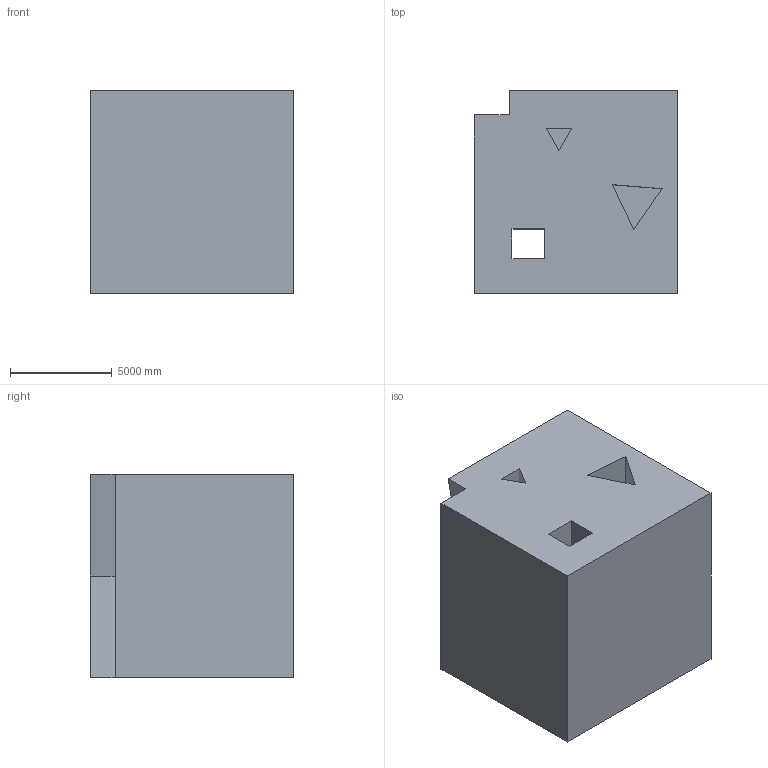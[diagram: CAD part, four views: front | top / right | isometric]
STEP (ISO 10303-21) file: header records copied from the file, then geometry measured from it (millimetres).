
FILE_DESCRIPTION (( 'STEP AP203' ), '1' );
FILE_NAME ('642.STEP', '2022-07-29T12:15:41', ( 'user' ), ( '' ), 'SwSTEP 2.0', 'SolidWorks 2021', '' );
FILE_SCHEMA (( 'CONFIG_CONTROL_DESIGN' ));
Length unit declared in the file: centimetre
Products named in the file (1): 642
Bounding box: 10000 x 10000 x 10000 mm (x, y, z)
Volume: 903601043491 mm3; surface area: 760419038.6 mm2
Topology: 1 solids, 1 shells, 35 faces, 84 edges, 56 vertices
Faces by surface type: plane 31, cylinder 4
Entity records: 1087 total; most frequent: CARTESIAN_POINT 176, ORIENTED_EDGE 168, DIRECTION 164, EDGE_CURVE 84, VECTOR 76, LINE 76, VERTEX_POINT 56, AXIS2_PLACEMENT_3D 44
